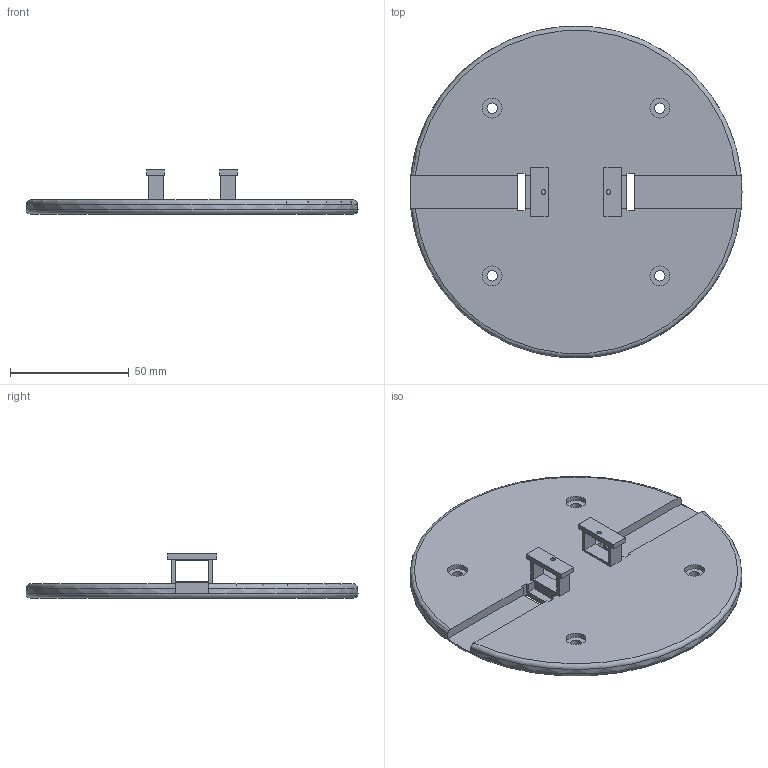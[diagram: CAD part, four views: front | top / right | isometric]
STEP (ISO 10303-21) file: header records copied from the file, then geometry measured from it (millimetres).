
FILE_DESCRIPTION(('Open CASCADE Model'),'2;1');
FILE_NAME('Open CASCADE Shape Model','2026-08-28T21:32:47',('Author'),( 'Open CASCADE'),'Open CASCADE STEP processor 7.8','Open CASCADE 7.8' ,'Unknown');
FILE_SCHEMA(('AUTOMOTIVE_DESIGN { 1 0 10303 214 1 1 1 1 }'));
Length unit declared in the file: millimetre
Products named in the file (1): Open CASCADE STEP translator 7.8 4
Bounding box: 140 x 140 x 18.6 mm (x, y, z)
Volume: 86288.1 mm3; surface area: 35420 mm2
Topology: 1 solids, 1 shells, 72 faces, 197 edges, 131 vertices
Faces by surface type: plane 58, cylinder 11, torus 3
Full cylindrical faces by diameter (mm): 1.9 x2, 4.4 x4, 8.4 x4, 140 x1
Entity records: 4965 total; most frequent: CARTESIAN_POINT 1229, DIRECTION 598, ORIENTED_EDGE 394, PCURVE 394, DEFINITIONAL_REPRESENTATION 394, LINE 371, VECTOR 371, EDGE_CURVE 197
